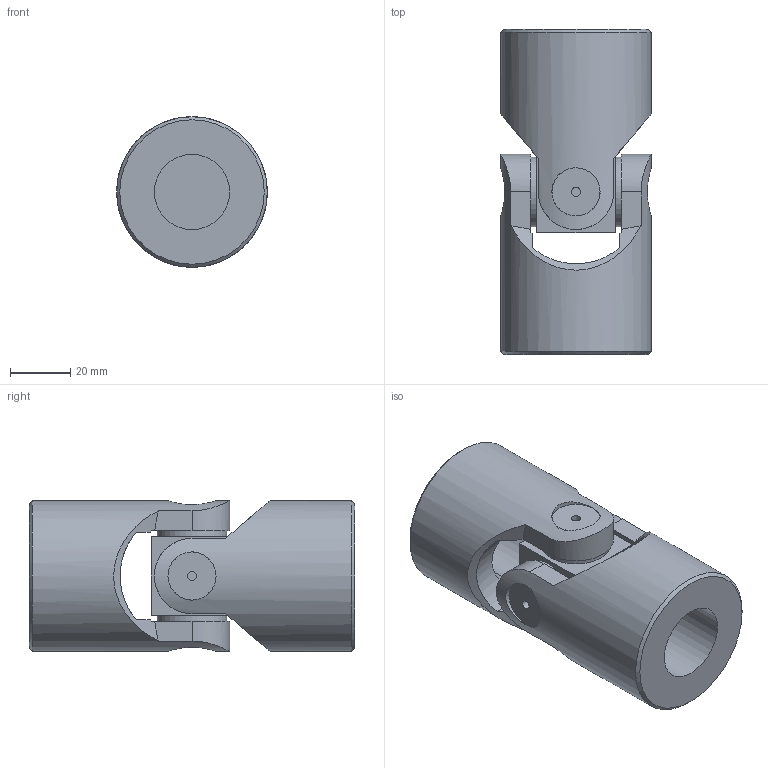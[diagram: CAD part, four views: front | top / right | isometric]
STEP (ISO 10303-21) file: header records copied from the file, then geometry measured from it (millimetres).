
FILE_DESCRIPTION(/* description */ (''),/* implementation_level */ '2;1');
FILE_NAME(/* name */ '\\SRV2016\Societa\Stefano\Disegni 3D\Dis. Clienti\0000Catalogo 3D\01Singoli G-GB\5G-00_SG0S2500.stp',/* time_stamp */ '2021-11-10T11:07:08+01:00',/* author */ ('acquisti'),/* organization */ (''),/* preprocessor_version */ 'ST-DEVELOPER v15.6',/* originating_system */ 'Autodesk Inventor 2015',/* authorisation */ '');
FILE_SCHEMA (('AUTOMOTIVE_DESIGN { 1 0 10303 214 3 1 1 }'));
Length unit declared in the file: millimetre
Products named in the file (3): 5G SFE; 5G MOS; Assieme1
Assembly tree (3 placements, depth 2):
  Assieme1
    5G SFE
    5G MOS  x2
Bounding box: 50 x 108 x 50 mm (x, y, z)
Volume: 142775.4 mm3; surface area: 33679.7 mm2
Topology: 3 solids, 3 shells, 72 faces, 170 edges, 114 vertices
Faces by surface type: plane 36, cylinder 22, cone 12, torus 2
Full cylindrical faces by diameter (mm): 3 x4, 16 x4, 23 x4, 25 x2, 28 x2, 50 x2
Entity records: 1407 total; most frequent: CARTESIAN_POINT 456, DIRECTION 184, ORIENTED_EDGE 164, EDGE_CURVE 82, AXIS2_PLACEMENT_3D 80, EDGE_LOOP 66, VERTEX_POINT 64, FACE_OUTER_BOUND 43
